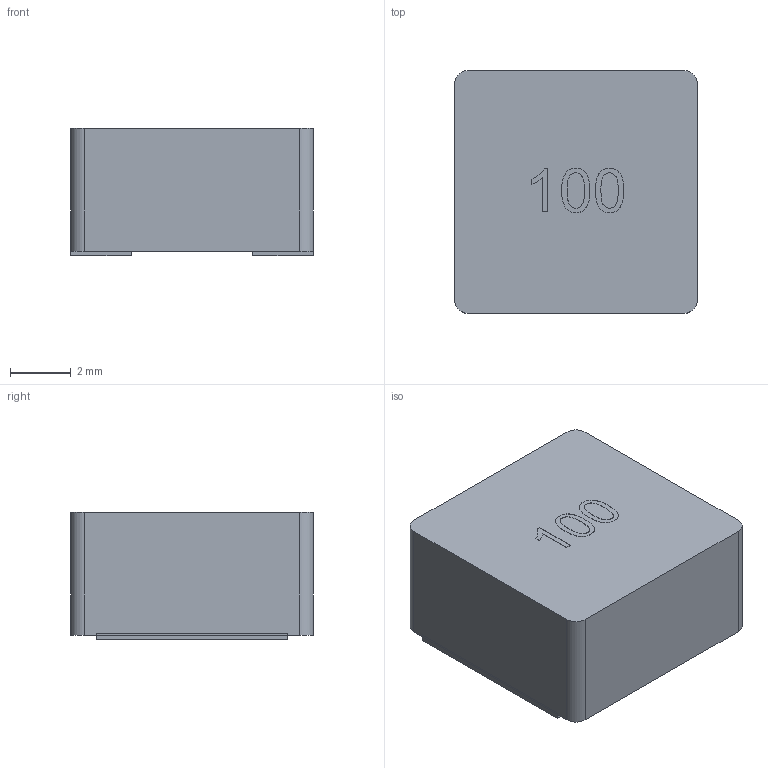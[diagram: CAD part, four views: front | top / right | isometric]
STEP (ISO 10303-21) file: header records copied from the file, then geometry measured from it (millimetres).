
FILE_DESCRIPTION(('Open CASCADE Model'),'2;1');
FILE_NAME('Open CASCADE Shape Model','2026-10-09T18:49:10',('Author'),( 'Open CASCADE'),'Open CASCADE STEP processor 7.9','Open CASCADE 7.9' ,'Unknown');
FILE_SCHEMA(('AUTOMOTIVE_DESIGN { 1 0 10303 214 1 1 1 1 }'));
Length unit declared in the file: millimetre
Products named in the file (5): Sunltech_SLW8040S; ferrite; terminal0; terminal1; mark_3
Assembly tree (4 placements, depth 2):
  Sunltech_SLW8040S
    ferrite
    terminal0
    terminal1
    mark_3
Bounding box: 8 x 8 x 4.21 mm (x, y, z)
Volume: 264.1 mm3; surface area: 314.9 mm2
Topology: 6 solids, 6 shells, 77 faces, 195 edges, 130 vertices
Faces by surface type: extrusion 44, plane 29, cylinder 4
Entity records: 5041 total; most frequent: CARTESIAN_POINT 1261, DIRECTION 533, VECTOR 437, LINE 393, ORIENTED_EDGE 390, PCURVE 390, DEFINITIONAL_REPRESENTATION 390, B_SPLINE_CURVE_WITH_KNOTS 220
